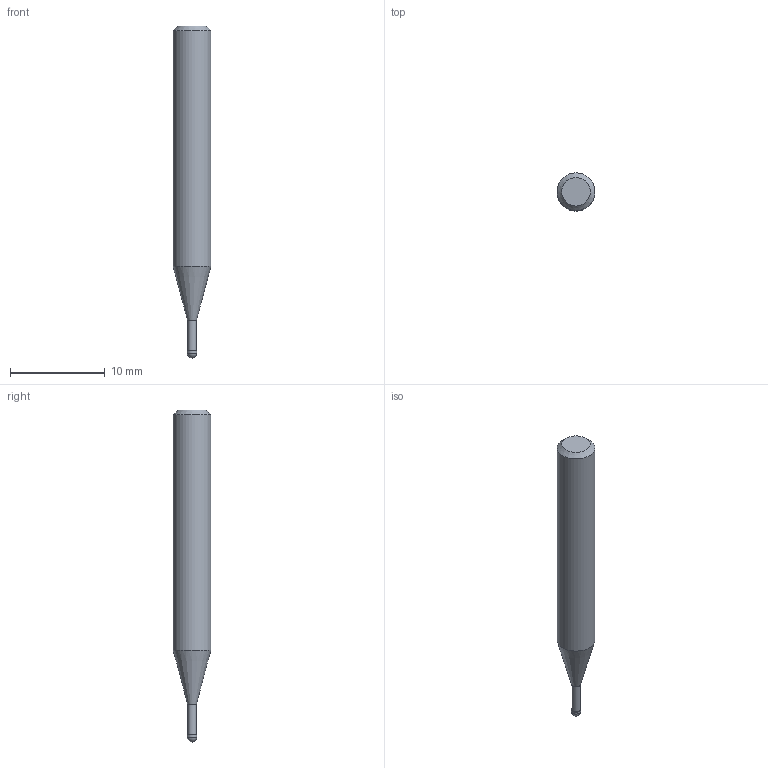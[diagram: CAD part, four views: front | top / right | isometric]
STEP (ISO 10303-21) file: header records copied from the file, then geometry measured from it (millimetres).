
FILE_DESCRIPTION((''),'2;1');
FILE_NAME('C:\Users\nsx150\AppData\Local\Temp\Mastercam 2021\QT8KEW0Y7J\TEMP.step','2021-04-23T11:21:07',(''),(''),'STEP Write','Mastercam 2021 ... CNC Software, Inc.','');
FILE_SCHEMA(('AUTOMOTIVE_DESIGN'));
Length unit declared in the file: millimetre
Products named in the file (1): None
Bounding box: 4 x 4 x 35 mm (x, y, z)
Volume: 350.2 mm3; surface area: 386 mm2
Topology: 2 solids, 2 shells, 9 faces, 14 edges, 8 vertices
Faces by surface type: plane 3, cylinder 3, cone 2, sphere 1
Full cylindrical faces by diameter (mm): 0.95 x1, 1 x1, 4 x1
Entity records: 211 total; most frequent: DIRECTION 36, CARTESIAN_POINT 25, AXIS2_PLACEMENT_3D 18, ORIENTED_EDGE 14, EDGE_LOOP 14, STYLED_ITEM 12, ADVANCED_FACE 9, FACE_BOUND 8
